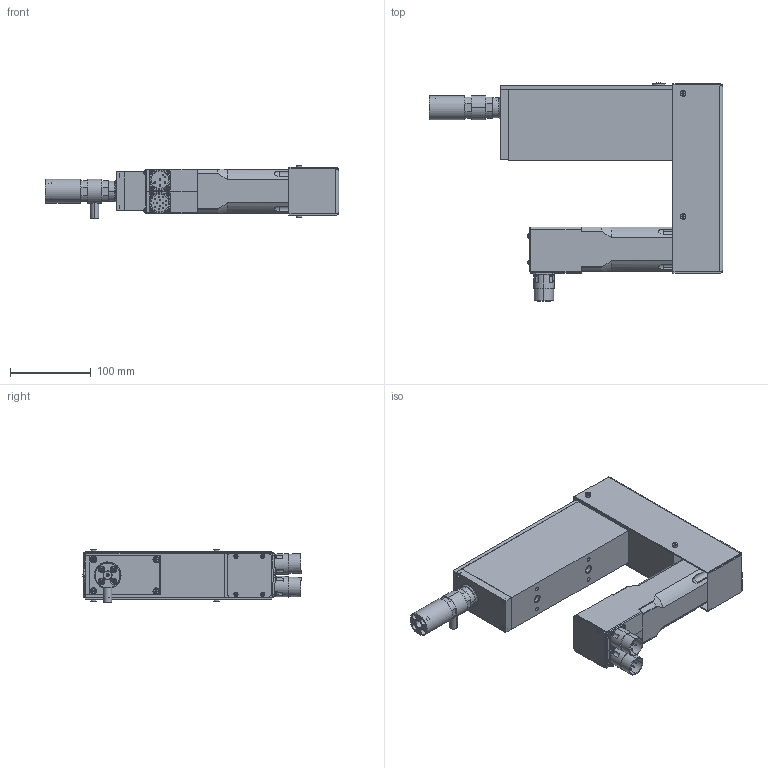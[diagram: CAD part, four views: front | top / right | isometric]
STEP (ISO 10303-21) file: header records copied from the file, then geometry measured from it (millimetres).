
FILE_DESCRIPTION (( 'STEP AP203' ), '1' );
FILE_NAME ('PR5PP010-010-040N.STEP', '2021-02-03T10:10:11', ( '' ), ( '' ), 'SwSTEP 2.0', 'SolidWorks 2016', '' );
FILE_SCHEMA (( 'CONFIG_CONTROL_DESIGN' ));
Length unit declared in the file: millimetre
Products named in the file (1): PR5PP010-010-040N
Bounding box: 362.5 x 269.51 x 66.3 mm (x, y, z)
Volume: 1733363 mm3; surface area: 386820.4 mm2
Topology: 29 solids, 41 shells, 2154 faces, 4996 edges, 2948 vertices
Faces by surface type: plane 1000, cylinder 599, cone 410, bspline 90, torus 42, sphere 13
Entity records: 63606 total; most frequent: CARTESIAN_POINT 15778, DIRECTION 10089, ORIENTED_EDGE 9640, EDGE_CURVE 4820, AXIS2_PLACEMENT_3D 3857, VERTEX_POINT 2935, EDGE_LOOP 2477, VECTOR 2375
